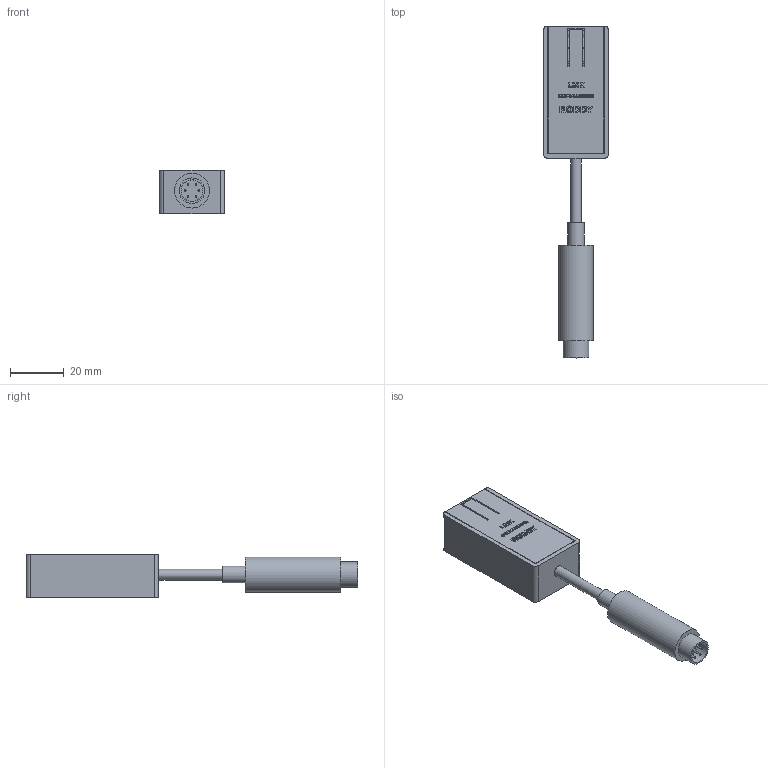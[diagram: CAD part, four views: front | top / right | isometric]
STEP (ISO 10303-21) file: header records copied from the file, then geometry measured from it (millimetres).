
FILE_DESCRIPTION(('Open CASCADE Model'),'2;1');
FILE_NAME('Open CASCADE Shape Model','2026-11-04T10:48:27',('Author'),( 'Open CASCADE'),'Open CASCADE STEP processor 7.9','Open CASCADE 7.9' ,'Unknown');
FILE_SCHEMA(('AUTOMOTIVE_DESIGN { 1 0 10303 214 1 1 1 1 }'));
Length unit declared in the file: millimetre
Products named in the file (48): dongle-cable_closed; base; lid; electronics_0; electronics_1; electronics_2; electronics_3; electronics_4; electronics_5; electronics_6; electronics_7; electronics_8; electronics_9; electronics_10; electronics_11; electronics_12; electronics_13; electronics_14; electronics_15; electronics_16; electronics_17; electronics_18; electronics_19; electronics_20; electronics_21; electronics_22; electronics_23; electronics_24; electronics_25; electronics_26; electronics_27; electronics_28; electronics_29; electronics_30; electronics_31; electronics_32; electronics_33; cable_0; plug_body_0; plug_strain_relief_0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
Assembly tree (47 placements, depth 2):
  dongle-cable_closed
    base
    lid
    electronics_0
    electronics_1
    electronics_2
    electronics_3
    electronics_4
    electronics_5
    electronics_6
    electronics_7
    electronics_8
    electronics_9
    electronics_10
    electronics_11
    electronics_12
    electronics_13
    electronics_14
    electronics_15
    electronics_16
    electronics_17
    electronics_18
    electronics_19
    electronics_20
    electronics_21
    electronics_22
    electronics_23
    electronics_24
    electronics_25
    electronics_26
    electronics_27
    electronics_28
    electronics_29
    electronics_30
    electronics_31
    electronics_32
    electronics_33
    cable_0
    plug_body_0
    plug_strain_relief_0
    plug_shell_0
    plug_insulator_0
    plug_pin_0_0
    plug_pin_0_1
    plug_pin_0_2
    plug_pin_0_3
    plug_pin_0_4
    plug_pin_0_5
Bounding box: 24.2 x 123.8 x 16.4 mm (x, y, z)
Volume: 15223.5 mm3; surface area: 18087.1 mm2
Topology: 47 solids, 47 shells, 1931 faces, 4889 edges, 3109 vertices
Faces by surface type: plane 1290, cylinder 342, bspline 186, extrusion 108, torus 4, revolution 1
Full cylindrical faces by diameter (mm): 0.5 x1, 0.6 x6, 0.95 x4, 1 x4, 2.3 x2, 4 x1, 4.4 x1, 6.2 x1, 6.3 x2, 8 x1, 8.2 x1, 9.5 x1, 13 x1
Entity records: 130432 total; most frequent: CARTESIAN_POINT 34389, DIRECTION 16373, VECTOR 11272, LINE 11164, ORIENTED_EDGE 9778, PCURVE 9778, DEFINITIONAL_REPRESENTATION 9778, EDGE_CURVE 4889
